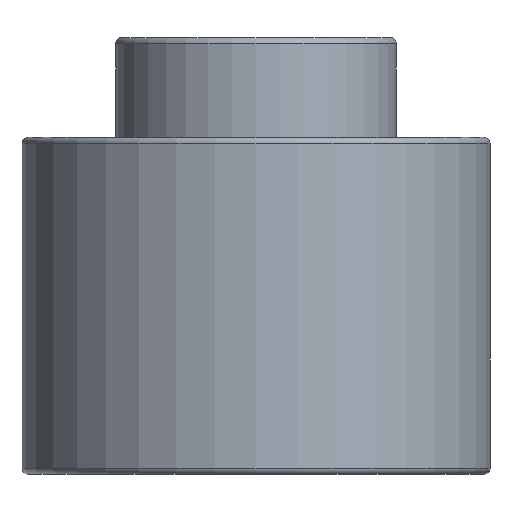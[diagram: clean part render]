
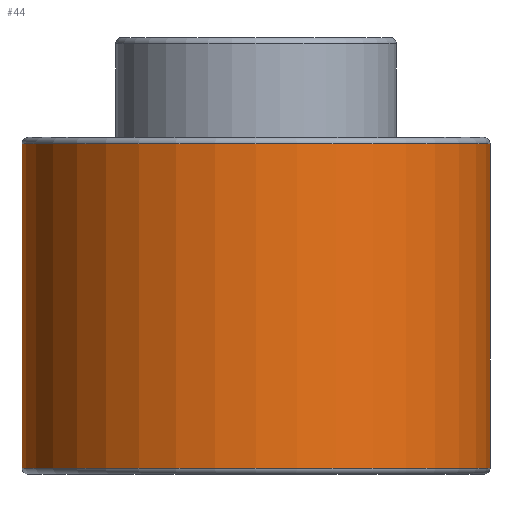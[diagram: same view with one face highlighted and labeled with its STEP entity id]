
A CAD part, front view. The second image highlights one B-rep face of the part: STEP entity #44.
In plain terms, the highlighted cylindrical face has radius 37.5 mm (diameter 75 mm), a full revolution.
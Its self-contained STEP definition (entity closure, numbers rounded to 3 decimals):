
#44=ADVANCED_FACE('',(#60,#61),#56,.T.);
#56=CYLINDRICAL_SURFACE('',#166,37.5);
#60=FACE_BOUND('',#84,.T.);
#61=FACE_BOUND('',#85,.T.);
#84=EDGE_LOOP('',(#106));
#85=EDGE_LOOP('',(#107));
#106=ORIENTED_EDGE('',*,*,#141,.F.);
#107=ORIENTED_EDGE('',*,*,#142,.T.);
#128=VERTEX_POINT('',#237);
#129=VERTEX_POINT('',#239);
#141=EDGE_CURVE('',#128,#128,#152,.T.);
#142=EDGE_CURVE('',#129,#129,#153,.T.);
#152=CIRCLE('',#164,37.5);
#153=CIRCLE('',#165,37.5);
#164=AXIS2_PLACEMENT_3D('',#236,#189,#190);
#165=AXIS2_PLACEMENT_3D('',#238,#191,#192);
#166=AXIS2_PLACEMENT_3D('',#240,#193,#194);
#189=DIRECTION('',(0.,0.,-1.));
#190=DIRECTION('',(-1.,0.,0.));
#191=DIRECTION('',(0.,0.,-1.));
#192=DIRECTION('',(-1.,0.,0.));
#193=DIRECTION('',(0.,0.,-1.));
#194=DIRECTION('',(-1.,0.,0.));
#236=CARTESIAN_POINT('',(0.,0.,1.));
#237=CARTESIAN_POINT('',(-37.5,0.,1.));
#238=CARTESIAN_POINT('',(0.,0.,53.));
#239=CARTESIAN_POINT('',(-37.5,0.,53.));
#240=CARTESIAN_POINT('',(0.,0.,0.));
